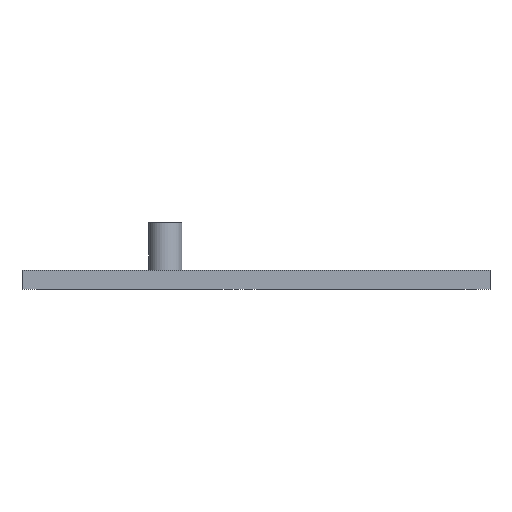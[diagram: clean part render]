
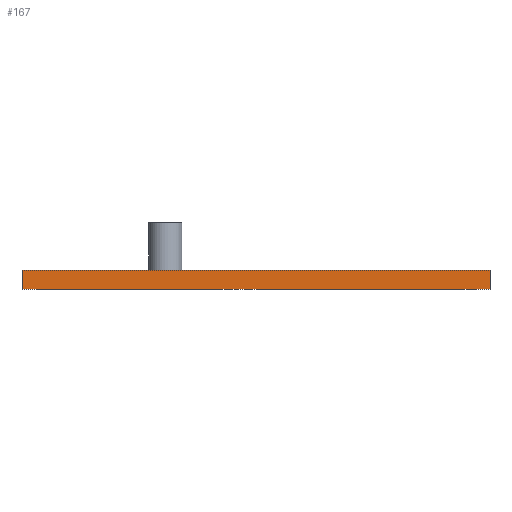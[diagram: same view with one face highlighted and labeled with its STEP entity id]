
A CAD part, front view. The second image highlights one B-rep face of the part: STEP entity #167.
In plain terms, the highlighted planar face has unit normal (0, -1, 0).
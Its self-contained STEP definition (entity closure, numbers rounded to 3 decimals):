
#51 = EDGE_CURVE('',#52,#54,#56,.T.);
#52 = VERTEX_POINT('',#53);
#53 = CARTESIAN_POINT('',(0.,0.,0.));
#54 = VERTEX_POINT('',#55);
#55 = CARTESIAN_POINT('',(0.,0.,4.));
#56 = SURFACE_CURVE('',#57,(#61,#73),.PCURVE_S1.);
#57 = LINE('',#58,#59);
#58 = CARTESIAN_POINT('',(0.,0.,0.));
#59 = VECTOR('',#60,1.);
#60 = DIRECTION('',(0.,0.,1.));
#61 = PCURVE('',#62,#67);
#62 = PLANE('',#63);
#63 = AXIS2_PLACEMENT_3D('',#64,#65,#66);
#64 = CARTESIAN_POINT('',(0.,0.,0.));
#65 = DIRECTION('',(1.,0.,-0.));
#66 = DIRECTION('',(0.,0.,1.));
#67 = DEFINITIONAL_REPRESENTATION('',(#68),#72);
#68 = LINE('',#69,#70);
#69 = CARTESIAN_POINT('',(0.,0.));
#70 = VECTOR('',#71,1.);
#71 = DIRECTION('',(1.,0.));
#72 = ( GEOMETRIC_REPRESENTATION_CONTEXT(2) 
PARAMETRIC_REPRESENTATION_CONTEXT() REPRESENTATION_CONTEXT('2D SPACE',''
  ) );
#73 = PCURVE('',#74,#79);
#74 = PLANE('',#75);
#75 = AXIS2_PLACEMENT_3D('',#76,#77,#78);
#76 = CARTESIAN_POINT('',(0.,0.,0.));
#77 = DIRECTION('',(-0.,1.,0.));
#78 = DIRECTION('',(0.,0.,1.));
#79 = DEFINITIONAL_REPRESENTATION('',(#80),#84);
#80 = LINE('',#81,#82);
#81 = CARTESIAN_POINT('',(0.,0.));
#82 = VECTOR('',#83,1.);
#83 = DIRECTION('',(1.,0.));
#84 = ( GEOMETRIC_REPRESENTATION_CONTEXT(2) 
PARAMETRIC_REPRESENTATION_CONTEXT() REPRESENTATION_CONTEXT('2D SPACE',''
  ) );
#102 = PLANE('',#103);
#103 = AXIS2_PLACEMENT_3D('',#104,#105,#106);
#104 = CARTESIAN_POINT('',(0.,0.,0.));
#105 = DIRECTION('',(0.,0.,1.));
#106 = DIRECTION('',(1.,0.,-0.));
#156 = PLANE('',#157);
#157 = AXIS2_PLACEMENT_3D('',#158,#159,#160);
#158 = CARTESIAN_POINT('',(0.,0.,4.));
#159 = DIRECTION('',(0.,0.,1.));
#160 = DIRECTION('',(1.,0.,-0.));
#167 = ADVANCED_FACE('',(#168),#74,.F.);
#168 = FACE_BOUND('',#169,.F.);
#169 = EDGE_LOOP('',(#170,#193,#194,#217));
#170 = ORIENTED_EDGE('',*,*,#171,.F.);
#171 = EDGE_CURVE('',#52,#172,#174,.T.);
#172 = VERTEX_POINT('',#173);
#173 = CARTESIAN_POINT('',(98.,0.,0.));
#174 = SURFACE_CURVE('',#175,(#179,#186),.PCURVE_S1.);
#175 = LINE('',#176,#177);
#176 = CARTESIAN_POINT('',(0.,0.,0.));
#177 = VECTOR('',#178,1.);
#178 = DIRECTION('',(1.,0.,-0.));
#179 = PCURVE('',#74,#180);
#180 = DEFINITIONAL_REPRESENTATION('',(#181),#185);
#181 = LINE('',#182,#183);
#182 = CARTESIAN_POINT('',(0.,0.));
#183 = VECTOR('',#184,1.);
#184 = DIRECTION('',(0.,1.));
#185 = ( GEOMETRIC_REPRESENTATION_CONTEXT(2) 
PARAMETRIC_REPRESENTATION_CONTEXT() REPRESENTATION_CONTEXT('2D SPACE',''
  ) );
#186 = PCURVE('',#102,#187);
#187 = DEFINITIONAL_REPRESENTATION('',(#188),#192);
#188 = LINE('',#189,#190);
#189 = CARTESIAN_POINT('',(0.,0.));
#190 = VECTOR('',#191,1.);
#191 = DIRECTION('',(1.,0.));
#192 = ( GEOMETRIC_REPRESENTATION_CONTEXT(2) 
PARAMETRIC_REPRESENTATION_CONTEXT() REPRESENTATION_CONTEXT('2D SPACE',''
  ) );
#193 = ORIENTED_EDGE('',*,*,#51,.T.);
#194 = ORIENTED_EDGE('',*,*,#195,.T.);
#195 = EDGE_CURVE('',#54,#196,#198,.T.);
#196 = VERTEX_POINT('',#197);
#197 = CARTESIAN_POINT('',(98.,0.,4.));
#198 = SURFACE_CURVE('',#199,(#203,#210),.PCURVE_S1.);
#199 = LINE('',#200,#201);
#200 = CARTESIAN_POINT('',(0.,0.,4.));
#201 = VECTOR('',#202,1.);
#202 = DIRECTION('',(1.,0.,-0.));
#203 = PCURVE('',#74,#204);
#204 = DEFINITIONAL_REPRESENTATION('',(#205),#209);
#205 = LINE('',#206,#207);
#206 = CARTESIAN_POINT('',(4.,0.));
#207 = VECTOR('',#208,1.);
#208 = DIRECTION('',(0.,1.));
#209 = ( GEOMETRIC_REPRESENTATION_CONTEXT(2) 
PARAMETRIC_REPRESENTATION_CONTEXT() REPRESENTATION_CONTEXT('2D SPACE',''
  ) );
#210 = PCURVE('',#156,#211);
#211 = DEFINITIONAL_REPRESENTATION('',(#212),#216);
#212 = LINE('',#213,#214);
#213 = CARTESIAN_POINT('',(0.,0.));
#214 = VECTOR('',#215,1.);
#215 = DIRECTION('',(1.,0.));
#216 = ( GEOMETRIC_REPRESENTATION_CONTEXT(2) 
PARAMETRIC_REPRESENTATION_CONTEXT() REPRESENTATION_CONTEXT('2D SPACE',''
  ) );
#217 = ORIENTED_EDGE('',*,*,#218,.F.);
#218 = EDGE_CURVE('',#172,#196,#219,.T.);
#219 = SURFACE_CURVE('',#220,(#224,#231),.PCURVE_S1.);
#220 = LINE('',#221,#222);
#221 = CARTESIAN_POINT('',(98.,0.,0.));
#222 = VECTOR('',#223,1.);
#223 = DIRECTION('',(0.,0.,1.));
#224 = PCURVE('',#74,#225);
#225 = DEFINITIONAL_REPRESENTATION('',(#226),#230);
#226 = LINE('',#227,#228);
#227 = CARTESIAN_POINT('',(0.,98.));
#228 = VECTOR('',#229,1.);
#229 = DIRECTION('',(1.,0.));
#230 = ( GEOMETRIC_REPRESENTATION_CONTEXT(2) 
PARAMETRIC_REPRESENTATION_CONTEXT() REPRESENTATION_CONTEXT('2D SPACE',''
  ) );
#231 = PCURVE('',#232,#237);
#232 = PLANE('',#233);
#233 = AXIS2_PLACEMENT_3D('',#234,#235,#236);
#234 = CARTESIAN_POINT('',(98.,0.,0.));
#235 = DIRECTION('',(1.,0.,-0.));
#236 = DIRECTION('',(0.,0.,1.));
#237 = DEFINITIONAL_REPRESENTATION('',(#238),#242);
#238 = LINE('',#239,#240);
#239 = CARTESIAN_POINT('',(0.,0.));
#240 = VECTOR('',#241,1.);
#241 = DIRECTION('',(1.,0.));
#242 = ( GEOMETRIC_REPRESENTATION_CONTEXT(2) 
PARAMETRIC_REPRESENTATION_CONTEXT() REPRESENTATION_CONTEXT('2D SPACE',''
  ) );
